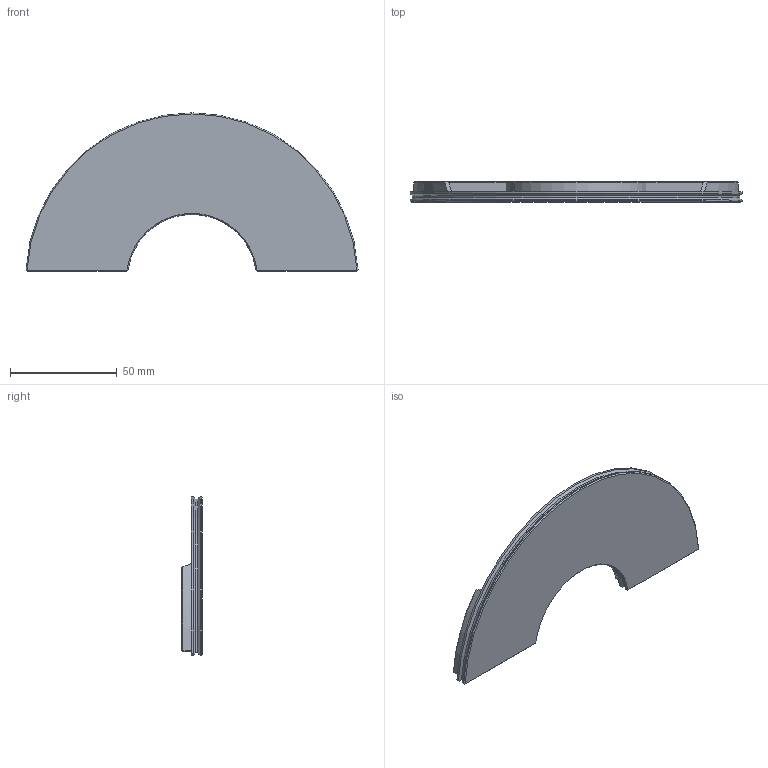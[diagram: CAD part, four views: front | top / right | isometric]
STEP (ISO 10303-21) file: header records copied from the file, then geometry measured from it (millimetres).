
FILE_DESCRIPTION(/* description */ (''),/* implementation_level */ '2;1');
FILE_NAME(/* name */ 'PokemonDrawers v1-drawer1b.step',/* time_stamp */ '2024-06-08T19:46:28+02:00',/* author */ (''),/* organization */ (''),/* preprocessor_version */ 'ST-DEVELOPER v20',/* originating_system */ 'Autodesk Translation Framework v13.14.0.145',/* authorisation */ '');
FILE_SCHEMA (('AUTOMOTIVE_DESIGN { 1 0 10303 214 3 1 1 }'));
Length unit declared in the file: millimetre
Products named in the file (2): PokemonDrawers; Component3
Assembly tree (1 placements, depth 2):
  PokemonDrawers
    Component3
Bounding box: 155.24 x 9.5 x 74 mm (x, y, z)
Volume: 39324.5 mm3; surface area: 19914.8 mm2
Topology: 1 solids, 1 shells, 65 faces, 162 edges, 100 vertices
Faces by surface type: plane 41, cylinder 12, cone 12
Entity records: 1933 total; most frequent: CARTESIAN_POINT 410, ORIENTED_EDGE 324, DIRECTION 298, EDGE_CURVE 162, AXIS2_PLACEMENT_3D 104, VERTEX_POINT 100, LINE 90, VECTOR 90
